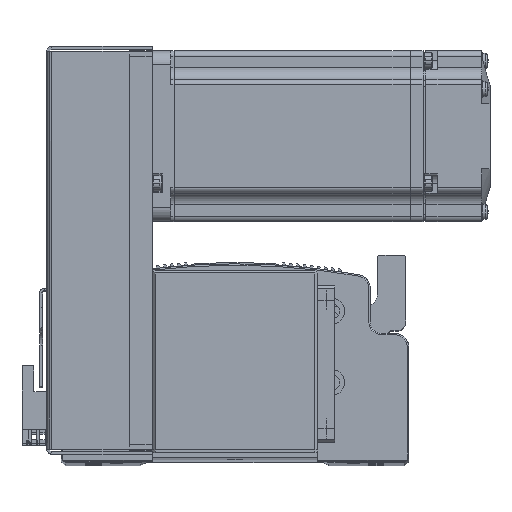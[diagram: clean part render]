
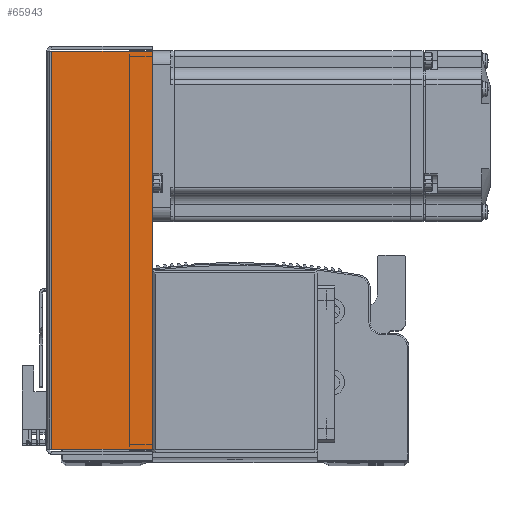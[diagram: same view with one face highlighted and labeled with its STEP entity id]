
A CAD part, top view. The second image highlights one B-rep face of the part: STEP entity #65943.
In plain terms, the highlighted planar face has unit normal (0, 0, 1) as drawn and (0, 0, -1) by its records, which use the part's own axes.
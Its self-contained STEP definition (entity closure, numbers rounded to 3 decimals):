
#1237 = EDGE_LOOP ( 'NONE', ( #67793, #67827, #67826, #67877 ) ) ;
#5467 = EDGE_CURVE ( 'NONE', #66420, #66459, #74345, .T. ) ;
#5518 = EDGE_CURVE ( 'NONE', #66472, #66417, #74302, .T. ) ;
#5565 = EDGE_CURVE ( 'NONE', #66417, #66459, #74394, .T. ) ;
#5638 = EDGE_CURVE ( 'NONE', #66472, #66420, #74454, .T. ) ;
#65943 = ADVANCED_FACE ( 'NONE', ( #71068 ), #75188, .F. ) ;
#66417 = VERTEX_POINT ( 'NONE', #79945 ) ;
#66420 = VERTEX_POINT ( 'NONE', #79845 ) ;
#66459 = VERTEX_POINT ( 'NONE', #79915 ) ;
#66472 = VERTEX_POINT ( 'NONE', #80043 ) ;
#67793 = ORIENTED_EDGE ( 'NONE', *, *, #5638, .F. ) ;
#67826 = ORIENTED_EDGE ( 'NONE', *, *, #5565, .T. ) ;
#67827 = ORIENTED_EDGE ( 'NONE', *, *, #5518, .T. ) ;
#67877 = ORIENTED_EDGE ( 'NONE', *, *, #5467, .F. ) ;
#71068 = FACE_OUTER_BOUND ( 'NONE', #1237, .T. ) ;
#72945 = AXIS2_PLACEMENT_3D ( 'NONE', #75185, #75196, #75182 ) ;
#74302 = LINE ( 'NONE', #76288, #74336 ) ;
#74326 = VECTOR ( 'NONE', #76241, 1000. ) ;
#74336 = VECTOR ( 'NONE', #76312, 1000. ) ;
#74345 = LINE ( 'NONE', #76235, #74326 ) ;
#74394 = LINE ( 'NONE', #76462, #74408 ) ;
#74408 = VECTOR ( 'NONE', #76461, 1000. ) ;
#74449 = VECTOR ( 'NONE', #76566, 1000. ) ;
#74454 = LINE ( 'NONE', #76563, #74449 ) ;
#75182 = DIRECTION ( 'NONE',  ( 0., -1., 0. ) ) ;
#75185 = CARTESIAN_POINT ( 'NONE',  ( 0., 0., -33.5 ) ) ;
#75188 = PLANE ( 'NONE',  #72945 ) ;
#75196 = DIRECTION ( 'NONE',  ( 0., 0., 1. ) ) ;
#76235 = CARTESIAN_POINT ( 'NONE',  ( 69.793, 0., -33.5 ) ) ;
#76241 = DIRECTION ( 'NONE',  ( 0., 1., 0. ) ) ;
#76288 = CARTESIAN_POINT ( 'NONE',  ( -69.793, 0., -33.5 ) ) ;
#76312 = DIRECTION ( 'NONE',  ( 0., 1., 0. ) ) ;
#76461 = DIRECTION ( 'NONE',  ( 1., 0., 0. ) ) ;
#76462 = CARTESIAN_POINT ( 'NONE',  ( 0., 36., -33.5 ) ) ;
#76563 = CARTESIAN_POINT ( 'NONE',  ( 71.5, 0.737, -33.5 ) ) ;
#76566 = DIRECTION ( 'NONE',  ( 1., 0., 0. ) ) ;
#79845 = CARTESIAN_POINT ( 'NONE',  ( 69.793, 0.737, -33.5 ) ) ;
#79915 = CARTESIAN_POINT ( 'NONE',  ( 69.793, 36., -33.5 ) ) ;
#79945 = CARTESIAN_POINT ( 'NONE',  ( -69.793, 36., -33.5 ) ) ;
#80043 = CARTESIAN_POINT ( 'NONE',  ( -69.793, 0.737, -33.5 ) ) ;
